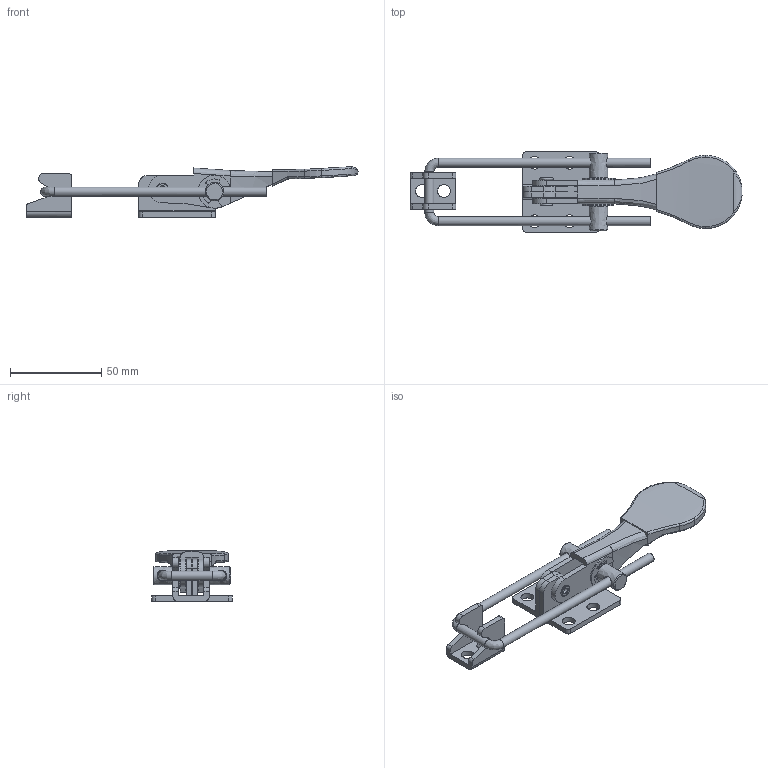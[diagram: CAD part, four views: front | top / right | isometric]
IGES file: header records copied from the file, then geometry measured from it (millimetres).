
Global section: file name: DR_C-032-42FAS; native system: Autodesk Inventor 2015; preprocessor: unknown; author: Administrator; date: 20180302.092644; units: millimetre
Bounding box: 181.45 x 44 x 27.7 mm (x, y, z)
Volume: 38064.4 mm3; surface area: 28433.3 mm2
Topology: 10 solids, 10 shells, 206 faces, 545 edges, 361 vertices
Faces by surface type: bspline 206
